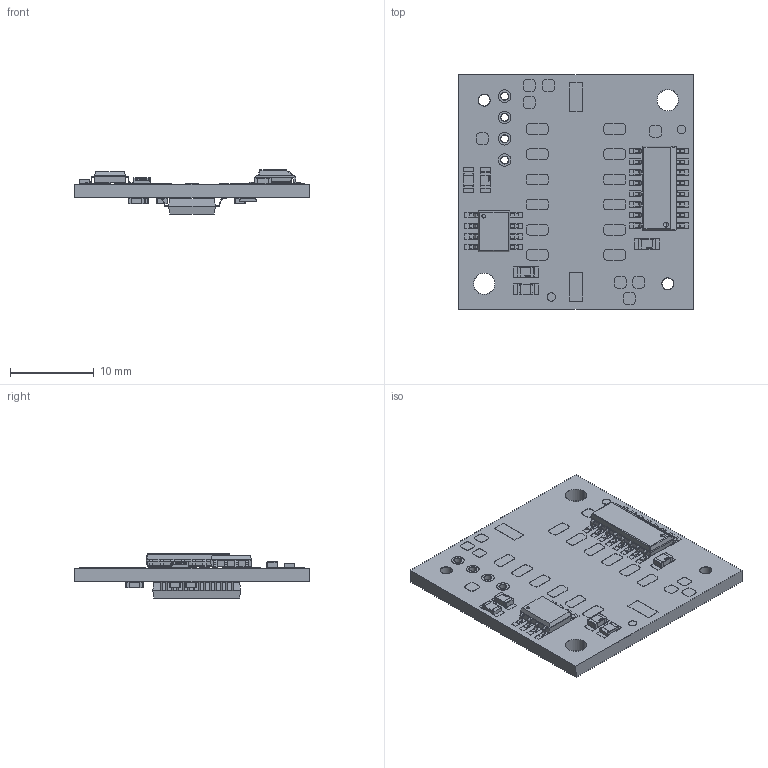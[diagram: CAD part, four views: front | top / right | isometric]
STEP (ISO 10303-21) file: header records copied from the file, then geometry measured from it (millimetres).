
FILE_DESCRIPTION (( 'STEP AP214' ), '1' );
FILE_NAME ('RMB28SSI_INC_AM4096_MODM366.STEP', '2019-12-04T15:02:40', ( '' ), ( '' ), 'SwSTEP 2.0', 'SolidWorks 2016', '' );
FILE_SCHEMA (( 'AUTOMOTIVE_DESIGN' ));
Length unit declared in the file: millimetre
Products named in the file (1): RMB28SSI_INC_AM4096_MODM366
Bounding box: 28 x 28 x 5.27 mm (x, y, z)
Volume: 1468.6 mm3; surface area: 2906.5 mm2
Topology: 192 solids, 192 shells, 3163 faces, 7847 edges, 5065 vertices
Faces by surface type: plane 2050, cylinder 561, bspline 540, sphere 12
Entity records: 167939 total; most frequent: CARTESIAN_POINT 59724, ORIENTED_EDGE 15528, DIRECTION 12703, EDGE_CURVE 7764, LINE 5689, VECTOR 5689, VERTEX_POINT 5064, AXIS2_PLACEMENT_3D 3507
